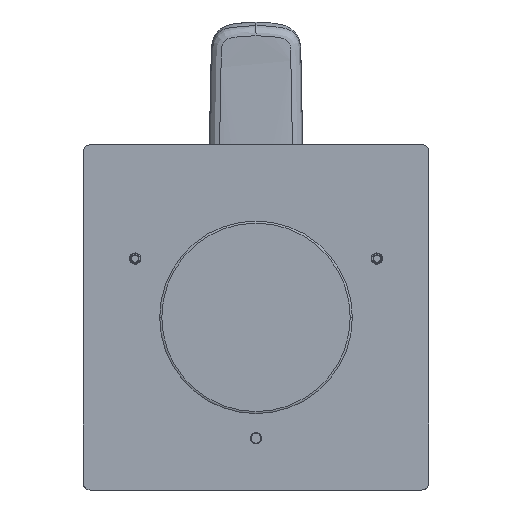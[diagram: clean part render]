
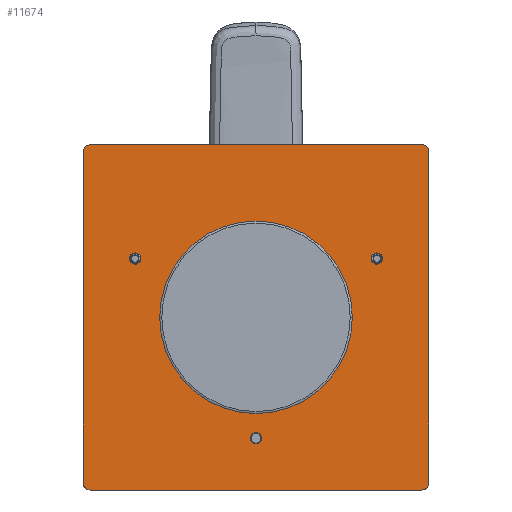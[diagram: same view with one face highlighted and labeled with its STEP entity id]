
A CAD part, front view. The second image highlights one B-rep face of the part: STEP entity #11674.
In plain terms, the highlighted planar face has unit normal (0, -1, 0).
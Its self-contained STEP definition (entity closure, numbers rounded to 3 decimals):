
#2433=CARTESIAN_POINT('',(48.,102.5,50.));
#2434=CARTESIAN_POINT('',(48.21,102.5,50.));
#2435=CARTESIAN_POINT('',(48.63,102.5,49.933));
#2436=CARTESIAN_POINT('',(49.196,102.5,49.644));
#2437=CARTESIAN_POINT('',(49.644,102.5,49.196));
#2438=CARTESIAN_POINT('',(49.836,102.5,48.82));
#2439=CARTESIAN_POINT('',(49.901,102.5,48.621));
#2441=CARTESIAN_POINT('',(49.901,102.5,48.621));
#2442=CARTESIAN_POINT('',(49.967,102.5,48.421));
#2443=CARTESIAN_POINT('',(50.,102.5,48.21));
#2444=CARTESIAN_POINT('',(50.,102.5,48.));
#2446=DIRECTION('',(0.,0.,1.));
#2447=VECTOR('',#2446,96.);
#2448=CARTESIAN_POINT('',(50.,102.5,-48.));
#2449=LINE('',#2448,#2447);
#2450=CARTESIAN_POINT('',(50.,102.5,-48.));
#2451=CARTESIAN_POINT('',(50.,102.5,-48.21));
#2452=CARTESIAN_POINT('',(49.933,102.5,-48.63));
#2453=CARTESIAN_POINT('',(49.644,102.5,-49.196));
#2454=CARTESIAN_POINT('',(49.196,102.5,-49.644));
#2455=CARTESIAN_POINT('',(48.82,102.5,-49.836));
#2456=CARTESIAN_POINT('',(48.621,102.5,-49.901));
#2458=CARTESIAN_POINT('',(48.621,102.5,-49.901));
#2459=CARTESIAN_POINT('',(48.421,102.5,-49.967));
#2460=CARTESIAN_POINT('',(48.21,102.5,-50.));
#2461=CARTESIAN_POINT('',(48.,102.5,-50.));
#2463=DIRECTION('',(1.,0.,0.));
#2464=VECTOR('',#2463,96.);
#2465=CARTESIAN_POINT('',(-48.,102.5,-50.));
#2466=LINE('',#2465,#2464);
#2467=CARTESIAN_POINT('',(-48.,102.5,-50.));
#2468=CARTESIAN_POINT('',(-48.21,102.5,-50.));
#2469=CARTESIAN_POINT('',(-48.63,102.5,-49.933));
#2470=CARTESIAN_POINT('',(-49.196,102.5,-49.644));
#2471=CARTESIAN_POINT('',(-49.643,102.5,-49.197));
#2472=CARTESIAN_POINT('',(-49.835,102.5,-48.822));
#2473=CARTESIAN_POINT('',(-49.9,102.5,-48.624));
#2475=CARTESIAN_POINT('',(-49.9,102.5,-48.624));
#2476=CARTESIAN_POINT('',(-49.966,102.5,-48.423));
#2477=CARTESIAN_POINT('',(-50.,102.5,-48.211));
#2478=CARTESIAN_POINT('',(-50.,102.5,-48.));
#2480=DIRECTION('',(0.,0.,-1.));
#2481=VECTOR('',#2480,96.);
#2482=CARTESIAN_POINT('',(-50.,102.5,48.));
#2483=LINE('',#2482,#2481);
#2484=CARTESIAN_POINT('',(-50.,102.5,48.));
#2485=CARTESIAN_POINT('',(-50.,102.5,48.21));
#2486=CARTESIAN_POINT('',(-49.933,102.5,48.63));
#2487=CARTESIAN_POINT('',(-49.644,102.5,49.196));
#2488=CARTESIAN_POINT('',(-49.197,102.5,49.643));
#2489=CARTESIAN_POINT('',(-48.822,102.5,49.835));
#2490=CARTESIAN_POINT('',(-48.624,102.5,49.9));
#2492=CARTESIAN_POINT('',(-48.624,102.5,49.9));
#2493=CARTESIAN_POINT('',(-48.423,102.5,49.966));
#2494=CARTESIAN_POINT('',(-48.211,102.5,50.));
#2495=CARTESIAN_POINT('',(-48.,102.5,50.));
#2497=DIRECTION('',(-1.,0.,0.));
#2498=VECTOR('',#2497,96.);
#2499=CARTESIAN_POINT('',(48.,102.5,50.));
#2500=LINE('',#2499,#2498);
#2533=CARTESIAN_POINT('',(0.,102.5,0.));
#2534=DIRECTION('',(0.,-1.,0.));
#2535=DIRECTION('',(1.,0.,0.));
#2536=AXIS2_PLACEMENT_3D('',#2533,#2534,#2535);
#2543=CARTESIAN_POINT('',(0.,102.5,0.));
#2544=DIRECTION('',(0.,-1.,0.));
#2545=DIRECTION('',(-1.,0.,0.));
#2546=AXIS2_PLACEMENT_3D('',#2543,#2544,#2545);
#2563=CARTESIAN_POINT('',(0.,102.5,-35.));
#2564=DIRECTION('',(0.,1.,0.));
#2565=DIRECTION('',(0.,0.,1.));
#2566=AXIS2_PLACEMENT_3D('',#2563,#2564,#2565);
#2572=CARTESIAN_POINT('',(0.,102.5,-35.));
#2573=DIRECTION('',(0.,1.,0.));
#2574=DIRECTION('',(0.,0.,-1.));
#2575=AXIS2_PLACEMENT_3D('',#2572,#2573,#2574);
#2611=CARTESIAN_POINT('',(35.,102.5,17.));
#2612=DIRECTION('',(0.,1.,0.));
#2613=DIRECTION('',(-1.,0.,0.));
#2614=AXIS2_PLACEMENT_3D('',#2611,#2612,#2613);
#2620=CARTESIAN_POINT('',(35.,102.5,17.));
#2621=DIRECTION('',(0.,1.,0.));
#2622=DIRECTION('',(1.,0.,0.));
#2623=AXIS2_PLACEMENT_3D('',#2620,#2621,#2622);
#2659=CARTESIAN_POINT('',(-35.,102.5,17.));
#2660=DIRECTION('',(0.,1.,0.));
#2661=DIRECTION('',(-1.,0.,0.));
#2662=AXIS2_PLACEMENT_3D('',#2659,#2660,#2661);
#2668=CARTESIAN_POINT('',(-35.,102.5,17.));
#2669=DIRECTION('',(0.,1.,0.));
#2670=DIRECTION('',(1.,0.,0.));
#2671=AXIS2_PLACEMENT_3D('',#2668,#2669,#2670);
#3201=CARTESIAN_POINT('',(-50.,102.5,48.));
#3202=CARTESIAN_POINT('',(-50.,102.5,-48.));
#3203=VERTEX_POINT('',#3201);
#3204=VERTEX_POINT('',#3202);
#3209=VERTEX_POINT('',#2490);
#3210=VERTEX_POINT('',#2495);
#3214=VERTEX_POINT('',#2467);
#3215=VERTEX_POINT('',#2473);
#3216=CARTESIAN_POINT('',(48.,102.5,-50.));
#3217=VERTEX_POINT('',#3216);
#3218=VERTEX_POINT('',#2450);
#3219=VERTEX_POINT('',#2456);
#3220=CARTESIAN_POINT('',(50.,102.5,48.));
#3221=VERTEX_POINT('',#3220);
#3222=VERTEX_POINT('',#2433);
#3223=VERTEX_POINT('',#2439);
#3224=CARTESIAN_POINT('',(-36.653,102.5,17.));
#3225=CARTESIAN_POINT('',(-33.347,102.5,17.));
#3226=VERTEX_POINT('',#3224);
#3227=VERTEX_POINT('',#3225);
#3228=CARTESIAN_POINT('',(33.347,102.5,17.));
#3229=CARTESIAN_POINT('',(36.653,102.5,17.));
#3230=VERTEX_POINT('',#3228);
#3231=VERTEX_POINT('',#3229);
#3232=CARTESIAN_POINT('',(0.,102.5,-33.372));
#3233=CARTESIAN_POINT('',(0.,102.5,-36.628));
#3234=VERTEX_POINT('',#3232);
#3235=VERTEX_POINT('',#3233);
#3236=CARTESIAN_POINT('',(27.884,102.5,0.));
#3237=CARTESIAN_POINT('',(-27.884,102.5,0.));
#3238=VERTEX_POINT('',#3236);
#3239=VERTEX_POINT('',#3237);
#11621=CARTESIAN_POINT('',(0.,102.5,0.));
#11622=DIRECTION('',(0.,-1.,0.));
#11623=DIRECTION('',(1.,0.,0.));
#11624=AXIS2_PLACEMENT_3D('',#11621,#11622,#11623);
#11625=PLANE('',#11624);
#11627=ORIENTED_EDGE('',*,*,#11626,.F.);
#11629=ORIENTED_EDGE('',*,*,#11628,.T.);
#11631=ORIENTED_EDGE('',*,*,#11630,.T.);
#11633=ORIENTED_EDGE('',*,*,#11632,.F.);
#11635=ORIENTED_EDGE('',*,*,#11634,.T.);
#11637=ORIENTED_EDGE('',*,*,#11636,.T.);
#11639=ORIENTED_EDGE('',*,*,#11638,.F.);
#11641=ORIENTED_EDGE('',*,*,#11640,.T.);
#11643=ORIENTED_EDGE('',*,*,#11642,.T.);
#11645=ORIENTED_EDGE('',*,*,#11644,.F.);
#11646=ORIENTED_EDGE('',*,*,#11609,.T.);
#11647=ORIENTED_EDGE('',*,*,#11616,.T.);
#11648=EDGE_LOOP('',(#11627,#11629,#11631,#11633,#11635,#11637,#11639,#11641,
#11643,#11645,#11646,#11647));
#11649=FACE_OUTER_BOUND('',#11648,.F.);
#11651=ORIENTED_EDGE('',*,*,#11650,.T.);
#11653=ORIENTED_EDGE('',*,*,#11652,.T.);
#11654=EDGE_LOOP('',(#11651,#11653));
#11655=FACE_BOUND('',#11654,.F.);
#11657=ORIENTED_EDGE('',*,*,#11656,.F.);
#11659=ORIENTED_EDGE('',*,*,#11658,.F.);
#11660=EDGE_LOOP('',(#11657,#11659));
#11661=FACE_BOUND('',#11660,.F.);
#11663=ORIENTED_EDGE('',*,*,#11662,.F.);
#11665=ORIENTED_EDGE('',*,*,#11664,.F.);
#11666=EDGE_LOOP('',(#11663,#11665));
#11667=FACE_BOUND('',#11666,.F.);
#11669=ORIENTED_EDGE('',*,*,#11668,.F.);
#11671=ORIENTED_EDGE('',*,*,#11670,.F.);
#11672=EDGE_LOOP('',(#11669,#11671));
#11673=FACE_BOUND('',#11672,.F.);
#11674=ADVANCED_FACE('',(#11649,#11655,#11661,#11667,#11673),#11625,.T.);
#2440=B_SPLINE_CURVE_WITH_KNOTS('',3,(#2433,#2434,#2435,#2436,#2437,#2438,
#2439),.UNSPECIFIED.,.F.,.F.,(4,1,1,1,4),(0.,0.251,
0.501,0.751,1.),.UNSPECIFIED.);
#2445=B_SPLINE_CURVE_WITH_KNOTS('',3,(#2441,#2442,#2443,#2444),.UNSPECIFIED.,
.F.,.F.,(4,4),(0.,1.),.UNSPECIFIED.);
#2457=B_SPLINE_CURVE_WITH_KNOTS('',3,(#2450,#2451,#2452,#2453,#2454,#2455,
#2456),.UNSPECIFIED.,.F.,.F.,(4,1,1,1,4),(0.,0.251,
0.501,0.751,1.),.UNSPECIFIED.);
#2462=B_SPLINE_CURVE_WITH_KNOTS('',3,(#2458,#2459,#2460,#2461),.UNSPECIFIED.,
.F.,.F.,(4,4),(0.,1.),.UNSPECIFIED.);
#2474=B_SPLINE_CURVE_WITH_KNOTS('',3,(#2467,#2468,#2469,#2470,#2471,#2472,
#2473),.UNSPECIFIED.,.F.,.F.,(4,1,1,1,4),(0.,0.251,
0.502,0.752,1.),.UNSPECIFIED.);
#2479=B_SPLINE_CURVE_WITH_KNOTS('',3,(#2475,#2476,#2477,#2478),.UNSPECIFIED.,
.F.,.F.,(4,4),(0.,1.),.UNSPECIFIED.);
#2491=B_SPLINE_CURVE_WITH_KNOTS('',3,(#2484,#2485,#2486,#2487,#2488,#2489,
#2490),.UNSPECIFIED.,.F.,.F.,(4,1,1,1,4),(0.,0.251,
0.502,0.752,1.),.UNSPECIFIED.);
#2496=B_SPLINE_CURVE_WITH_KNOTS('',3,(#2492,#2493,#2494,#2495),.UNSPECIFIED.,
.F.,.F.,(4,4),(0.,1.),.UNSPECIFIED.);
#2537=CIRCLE('',#2536,27.884);
#2547=CIRCLE('',#2546,27.884);
#2567=CIRCLE('',#2566,1.628);
#2576=CIRCLE('',#2575,1.628);
#2615=CIRCLE('',#2614,1.653);
#2624=CIRCLE('',#2623,1.653);
#2663=CIRCLE('',#2662,1.653);
#2672=CIRCLE('',#2671,1.653);
#11609=EDGE_CURVE('',#3203,#3209,#2491,.T.);
#11616=EDGE_CURVE('',#3209,#3210,#2496,.T.);
#11626=EDGE_CURVE('',#3222,#3210,#2500,.T.);
#11628=EDGE_CURVE('',#3222,#3223,#2440,.T.);
#11630=EDGE_CURVE('',#3223,#3221,#2445,.T.);
#11632=EDGE_CURVE('',#3218,#3221,#2449,.T.);
#11634=EDGE_CURVE('',#3218,#3219,#2457,.T.);
#11636=EDGE_CURVE('',#3219,#3217,#2462,.T.);
#11638=EDGE_CURVE('',#3214,#3217,#2466,.T.);
#11640=EDGE_CURVE('',#3214,#3215,#2474,.T.);
#11642=EDGE_CURVE('',#3215,#3204,#2479,.T.);
#11644=EDGE_CURVE('',#3203,#3204,#2483,.T.);
#11650=EDGE_CURVE('',#3238,#3239,#2537,.T.);
#11652=EDGE_CURVE('',#3239,#3238,#2547,.T.);
#11656=EDGE_CURVE('',#3234,#3235,#2567,.T.);
#11658=EDGE_CURVE('',#3235,#3234,#2576,.T.);
#11662=EDGE_CURVE('',#3230,#3231,#2615,.T.);
#11664=EDGE_CURVE('',#3231,#3230,#2624,.T.);
#11668=EDGE_CURVE('',#3226,#3227,#2663,.T.);
#11670=EDGE_CURVE('',#3227,#3226,#2672,.T.);
